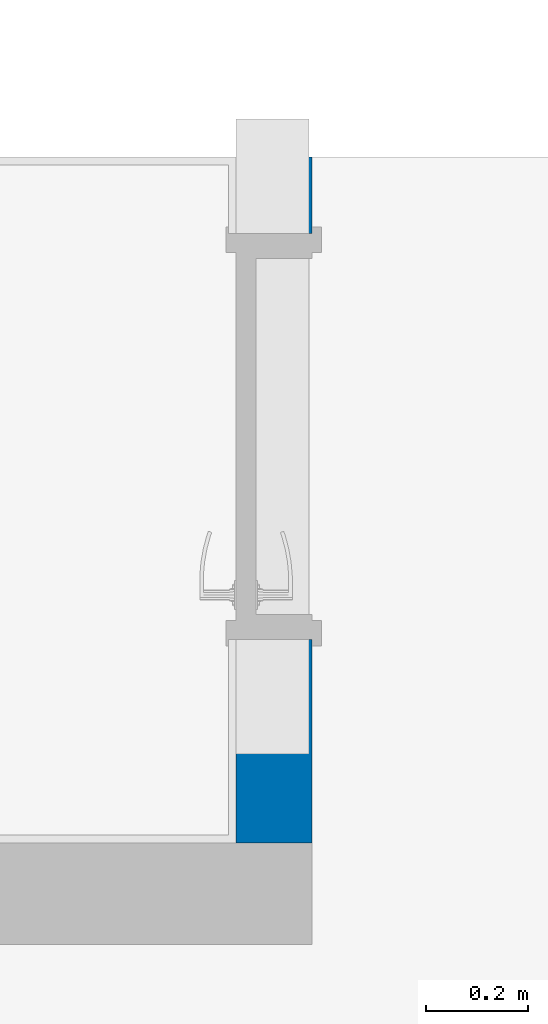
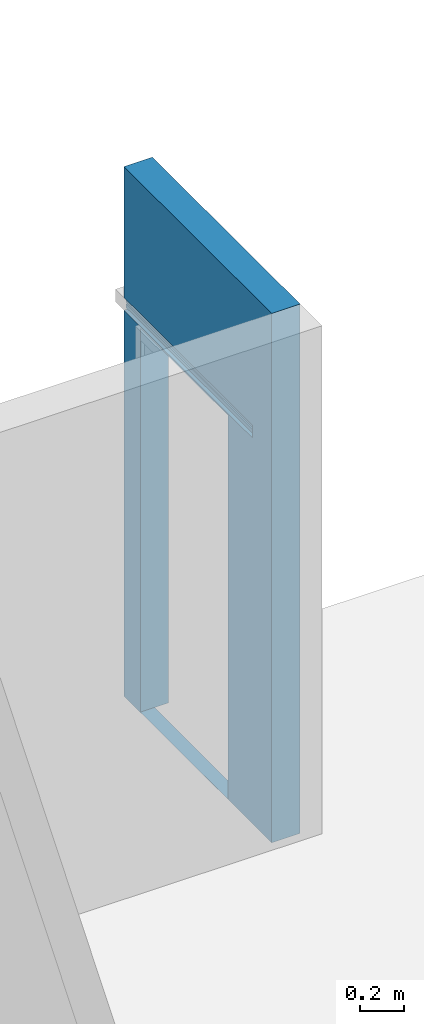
# One storey, part 7 of 9: 1 wall, 1 opening.
"""IFC4 building model written with IfcOpenShell, lengths in millimetres."""

from ifc_helpers import new_model, entity, si_unit, converted_unit, derived_unit, direction, frame, origin_with_axes, place, context, subcontext, project, spatial, polygons, material, constituent, constituent_set, type_object, element, save


model = new_model("IFC4")

# Units and contexts
model_context = context("Model", 3, precision=0.01, world=origin_with_axes(), true_north=direction((0.0, 1.0)))
body_context = subcontext(model_context, "Body", "Model", "MODEL_VIEW")
ifc_project = project(units=[si_unit("LENGTHUNIT", "METRE", prefix="MILLI"), si_unit("AREAUNIT", "SQUARE_METRE"), si_unit("VOLUMEUNIT", "CUBIC_METRE"), converted_unit("PLANEANGLEUNIT", "DEGREE", entity("IfcPlaneAngleMeasure", 0.0174532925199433), si_unit("PLANEANGLEUNIT", "RADIAN"), dimensions=[0, 0, 0, 0, 0, 0, 0]), converted_unit("TIMEUNIT", "Year", entity("IfcTimeMeasure", 31557600.0), si_unit("TIMEUNIT", "SECOND"), dimensions=[0, 0, 1, 0, 0, 0, 0]), si_unit("MASSUNIT", "GRAM", prefix="KILO"), si_unit("THERMODYNAMICTEMPERATUREUNIT", "DEGREE_CELSIUS"), si_unit("LUMINOUSINTENSITYUNIT", "LUMEN"), si_unit("ENERGYUNIT", "JOULE", prefix="MEGA"), derived_unit("THERMALCONDUCTANCEUNIT", [(si_unit("POWERUNIT", "WATT"), 1), (si_unit("LENGTHUNIT", "METRE"), -1), (si_unit("THERMODYNAMICTEMPERATUREUNIT", "KELVIN"), -1)]), derived_unit("SPECIFICHEATCAPACITYUNIT", [(si_unit("ENERGYUNIT", "JOULE"), 1), (si_unit("MASSUNIT", "GRAM", prefix="KILO"), -1), (si_unit("THERMODYNAMICTEMPERATUREUNIT", "KELVIN"), -1)]), derived_unit("MASSDENSITYUNIT", [(si_unit("MASSUNIT", "GRAM", prefix="KILO"), 1), (si_unit("VOLUMEUNIT", "CUBIC_METRE"), -1)])], contexts=[model_context])

# Site, building, storey
site_placement = place(None, origin_with_axes())
site = spatial("IfcSite", under=ifc_project, at=site_placement, Name="Exteriér", CompositionType="ELEMENT")
building_placement = place(site_placement, origin_with_axes())
building = spatial("IfcBuilding", under=site, at=building_placement, Name="Univerzitní lezecké centrum", CompositionType="ELEMENT")
storey_placement = place(building_placement, origin_with_axes())
storey = spatial("IfcBuildingStorey", under=building, at=storey_placement, Name="1.NP", CompositionType="ELEMENT", Elevation=0.0)

# Wall, opening
ifc_material = material(Name="Keramické tvárnice nenosné tl. 150 mm")
ifc_constituent = constituent(ifc_material, Name="Keramické tvárnice nenosné tl. 150 mm")
ifc_constituent_set = constituent_set(constituents=[ifc_constituent], Name="!Vnitřní keramická stěna 150 mm - nenosná*")
wall_type = type_object("IfcWallType", Name="!Vnitřní keramická stěna 150 mm - nenosná* 150", PredefinedType="NOTDEFINED")
wall_placement = place(storey_placement, frame((-3100.408868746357, 4700.00000000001, -120.000000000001), z_axis=(0.0, 0.0, 1.0), x_axis=(0.0, -1.0, 0.0)))
wall = element("IfcWall", 1, at=wall_placement, inside=storey, type_object=wall_type, material=ifc_constituent_set, Name="St07*", PredefinedType="NOTDEFINED", context=body_context, shape_type="Tessellation", body=[
    polygons([(450.000074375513, 74.99991591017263, 0.4999999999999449), (450.000074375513, 149.9999431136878, 0.4999999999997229), (450.0000000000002, 150.0000000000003, 120.000000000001), (450.0000000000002, 0.0, 120.000000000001), (450.0000130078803, 0.0, 0.4999999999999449), (450.000074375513, 149.9999431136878, 0.0), (450.000074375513, 74.99991591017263, 0.0), (1249.99988174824, 149.9999431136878, 0.0), (1249.99988174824, 149.9999431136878, 0.4999999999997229), (1250.0, 150.0000000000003, 120.000000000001), (1250.0, 150.0000000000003, 2140.000000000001), (450.0000000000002, 150.0000000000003, 2140.000000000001), (300.0000000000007, 150.0000000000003, 0.0), (300.0000000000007, 150.0000000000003, 2950.000000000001), (1650.0, 150.0000000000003, 2950.000000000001), (1650.0, 150.0000000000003, 0.0), (450.0000000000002, 0.0, 2140.000000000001), (1475.0, 0.0, 2221.000000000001), (1475.0, 0.0, 2150.000000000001), (300.0000000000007, 0.0, 2150.000000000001), (300.0000000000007, 0.0, 0.0), (1650.0, 0.0, 0.0), (1650.0, 0.0, 2950.000000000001), (300.0000000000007, 0.0, 2950.000000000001), (300.0000000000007, 0.0, 2221.000000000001), (1250.0, 0.0, 2140.000000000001), (1250.0, 0.0, 120.000000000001), (1250.0, 0.0, 0.4999999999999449), (1249.99988174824, 74.99991591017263, 0.4999999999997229), (1249.99988174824, 74.99991591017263, 0.0), (300.0000000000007, 144.274998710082, 2221.000000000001), (300.0000000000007, 144.274998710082, 2150.000000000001), (1475.0, 144.274998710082, 2221.000000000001), (1475.0, 144.274998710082, 2150.000000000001), (1475.0, 11.44249999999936, 2180.49963740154), (1475.0, 11.44249999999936, 2160.49963740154), (1475.0, 33.33250000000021, 2160.49963740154), (1475.0, 33.33250000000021, 2180.49963740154), (1475.0, 11.44249999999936, 2210.5), (1475.0, 11.44249999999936, 2190.500000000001), (1475.0, 33.33250000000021, 2190.500000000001), (1475.0, 33.33250000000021, 2210.5), (1475.0, 110.9413637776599, 2160.49963740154), (1475.0, 132.8313637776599, 2160.49963740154), (1475.0, 132.8313637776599, 2180.49963740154), (1475.0, 110.9413637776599, 2180.49963740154), (1475.0, 132.8313637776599, 2210.5), (1475.0, 110.9413637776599, 2210.5), (1475.0, 110.9413637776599, 2190.500000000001), (1475.0, 132.8313637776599, 2190.500000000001), (300.0000000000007, 11.44250000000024, 2180.49963740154), (300.0000000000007, 11.44250000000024, 2160.49963740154), (300.0000000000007, 33.33250000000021, 2160.49963740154), (300.0000000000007, 33.33250000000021, 2180.49963740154), (300.0000000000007, 11.44250000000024, 2210.5), (300.0000000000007, 11.44250000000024, 2190.500000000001), (300.0000000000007, 33.33250000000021, 2190.500000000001), (300.0000000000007, 33.33250000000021, 2210.5), (300.0000000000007, 110.9413637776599, 2160.49963740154), (300.0000000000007, 132.8313637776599, 2160.49963740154), (300.0000000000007, 132.8313637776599, 2180.49963740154), (300.0000000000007, 110.9413637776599, 2180.49963740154), (300.0000000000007, 132.8313637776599, 2210.5), (300.0000000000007, 110.9413637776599, 2210.5), (300.0000000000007, 110.9413637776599, 2190.500000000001), (300.0000000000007, 132.8313637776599, 2190.500000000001)], [[[1, 2, 3, 4, 5]], [[6, 2, 1, 7]], [[8, 9, 10, 11, 12, 3, 2, 6, 13, 14, 15, 16]], [[17, 4, 3, 12]], [[18, 19, 20, 21, 22, 23, 24, 25], [4, 17, 26, 27, 28, 5]], [[29, 1, 5, 28]], [[1, 29, 30, 7]], [[30, 8, 16, 22, 21, 13, 6, 7]], [[29, 9, 8, 30]], [[9, 29, 28, 27, 10]], [[27, 26, 11, 10]], [[26, 17, 12, 11]], [[31, 25, 24, 14, 13, 21, 20, 32]], [[24, 23, 15, 14]], [[16, 15, 23, 22]], [[18, 33, 34, 19], [35, 36, 37, 38], [39, 40, 41, 42], [43, 44, 45, 46], [47, 48, 49, 50]], [[34, 32, 20, 19]], [[31, 33, 18, 25]], [[33, 31, 32, 34]], [[35, 51, 52, 36]], [[36, 52, 53, 37]], [[37, 53, 54, 38]], [[38, 54, 51, 35]], [[39, 55, 56, 40]], [[40, 56, 57, 41]], [[41, 57, 58, 42]], [[42, 58, 55, 39]], [[43, 59, 60, 44]], [[44, 60, 61, 45]], [[45, 61, 62, 46]], [[46, 62, 59, 43]], [[47, 63, 64, 48]], [[48, 64, 65, 49]], [[49, 65, 66, 50]], [[50, 66, 63, 47]], [[53, 52, 51, 54]], [[57, 56, 55, 58]], [[60, 59, 62, 61]], [[66, 65, 64, 63]]], closed=True),
])
opening_placement = place(wall_placement, frame((849.9999999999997, 0.0, 120.000000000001), z_axis=(0.0, 0.0, 1.0), x_axis=(1.0, 0.0, 0.0)))
element("IfcOpeningElement", 2, at=opening_placement, cuts=wall, Name="D06", context=body_context, identifier="Reference", shape_type="Tessellation", body=[
    polygons([(-399.9999999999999, 0.0, 0.0), (-399.9999999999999, 0.0, 2020.0), (-399.9999999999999, 150.0000000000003, 2020.0), (-399.9999999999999, 150.0000000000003, 0.0), (399.9999999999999, 0.0, 2020.0), (-412.0000000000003, 0.0, 0.0), (-412.0000000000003, 0.0, 2032.0), (411.9999999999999, 0.0, 2032.0), (411.9999999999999, 0.0, 0.0), (399.9999999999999, 0.0, 0.0), (399.9999999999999, 150.0000000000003, 2020.0), (399.9999999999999, 149.9999999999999, 0.0), (411.9999999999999, 149.9999999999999, 0.0), (411.9999999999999, 150.0000000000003, 2032.0), (-412.0000000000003, 150.0000000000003, 2032.0), (-412.0000000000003, 150.0000000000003, 0.0), (-399.9999999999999, -1.000000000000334, 0.0), (-399.9999999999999, 150.9999999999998, 0.0), (399.9999999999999, 150.9999999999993, 0.0), (399.9999999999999, -1.000000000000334, 0.0), (-412.0000000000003, -1.000000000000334, 0.0), (-412.0000000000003, -0.9999999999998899, 2032.0), (411.9999999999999, -0.9999999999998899, 2032.0), (411.9999999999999, -1.000000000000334, 0.0), (411.9999999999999, 150.9999999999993, 0.0), (411.9999999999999, 150.9999999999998, 2032.0), (-412.0000000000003, 150.9999999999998, 2032.0), (-412.0000000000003, 150.9999999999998, 0.0), (-399.9999999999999, -0.9999999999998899, 2020.0), (399.9999999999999, -0.9999999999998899, 2020.0)], [[[1, 2, 3, 4]], [[5, 2, 1, 6, 7, 8, 9, 10]], [[2, 5, 11, 3]], [[4, 3, 11, 12, 13, 14, 15, 16]], [[17, 1, 4, 18, 19, 12, 10, 20]], [[1, 17, 21, 6]], [[7, 6, 21, 22]], [[8, 7, 22, 23]], [[9, 8, 23, 24]], [[20, 10, 9, 24]], [[5, 10, 12, 11]], [[12, 19, 25, 13]], [[14, 13, 25, 26]], [[15, 14, 26, 27]], [[16, 15, 27, 28]], [[18, 4, 16, 28]], [[18, 28, 27, 26, 25, 19]], [[29, 17, 20, 30]], [[17, 29, 30, 20, 24, 23, 22, 21]]], closed=True),
])

save(model, "model.ifc")
